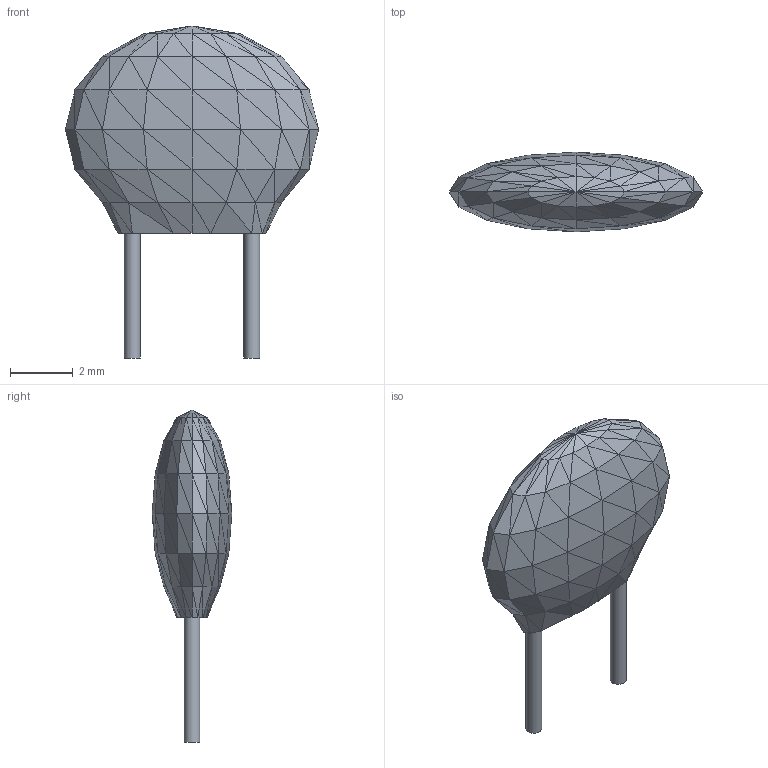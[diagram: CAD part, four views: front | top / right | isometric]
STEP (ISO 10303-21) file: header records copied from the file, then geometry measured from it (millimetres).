
FILE_DESCRIPTION(('STEP AP214'),'1');
FILE_NAME('RES_CNS020_VIS','2026-03-27T01:56:23',(''),(''),'','','');
FILE_SCHEMA(('AUTOMOTIVE_DESIGN'));
Length unit declared in the file: millimetre
Products named in the file (1): product
Bounding box: 8.08 x 2.54 x 10.59 mm (x, y, z)
Volume: 70 mm3; surface area: 117 mm2
Topology: 3 solids, 3 shells, 230 faces, 342 edges, 118 vertices
Faces by surface type: plane 228, cylinder 2
Full cylindrical faces by diameter (mm): 0.508 x2
Entity records: 4546 total; most frequent: DIRECTION 810, ORIENTED_EDGE 680, CARTESIAN_POINT 355, EDGE_CURVE 340, LINE 336, VECTOR 336, AXIS2_PLACEMENT_3D 237, EDGE_LOOP 232
